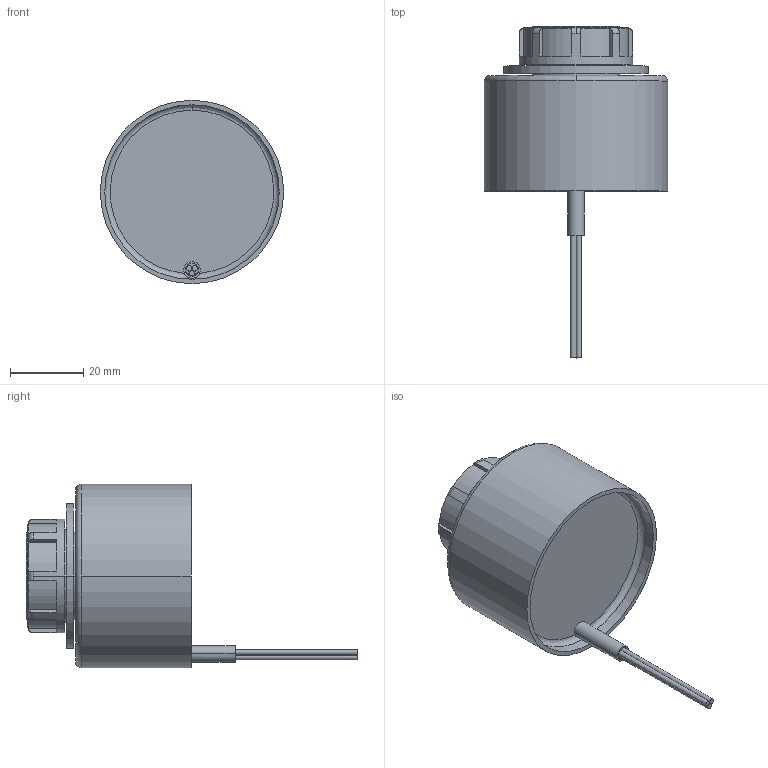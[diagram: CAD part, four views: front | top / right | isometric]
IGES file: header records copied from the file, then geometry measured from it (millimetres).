
Global section: file name: No Iges File Name specified; native system: Autodesk Inventor 2010; preprocessor: AutoDesk Inventor Iges Exporter R2010; author: pitzer; date: 20100318.102430; units: inch
Bounding box: 50 x 90.5 x 50 mm (x, y, z)
Volume: 57455.6 mm3; surface area: 17751.3 mm2
Topology: 3 solids, 3 shells, 126 faces, 315 edges, 202 vertices
Faces by surface type: plane 57, cylinder 36, revolution 22, cone 4, torus 4, bspline 3
